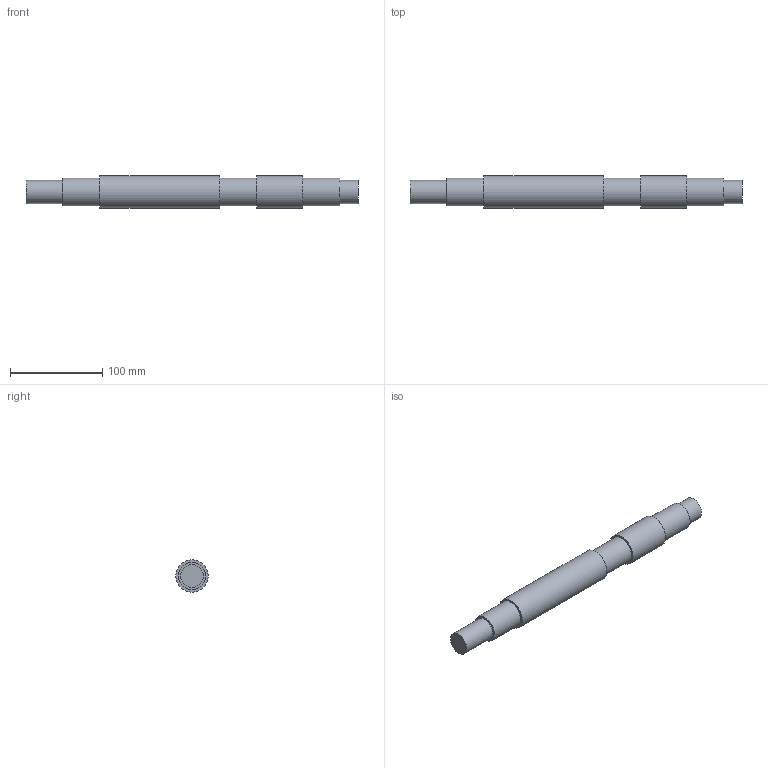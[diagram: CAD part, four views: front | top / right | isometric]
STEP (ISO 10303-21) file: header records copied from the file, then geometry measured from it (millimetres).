
FILE_DESCRIPTION(('Open CASCADE Model'),'2;1');
FILE_NAME('Open CASCADE Shape Model','2026-09-12T01:46:03',('Author'),( 'Open CASCADE'),'Open CASCADE STEP processor 7.8','Open CASCADE 7.8' ,'Unknown');
FILE_SCHEMA(('AUTOMOTIVE_DESIGN { 1 0 10303 214 1 1 1 1 }'));
Length unit declared in the file: millimetre
Products named in the file (1): Open CASCADE STEP translator 7.8 1
Bounding box: 360 x 35 x 35 mm (x, y, z)
Volume: 287455.7 mm3; surface area: 38248.9 mm2
Topology: 1 solids, 1 shells, 15 faces, 21 edges, 14 vertices
Faces by surface type: plane 8, cylinder 7
Full cylindrical faces by diameter (mm): 25 x2, 30 x3, 35 x2
Entity records: 612 total; most frequent: DIRECTION 109, CARTESIAN_POINT 93, ORIENTED_EDGE 42, PCURVE 42, DEFINITIONAL_REPRESENTATION 42, LINE 35, VECTOR 35, AXIS2_PLACEMENT_3D 30
